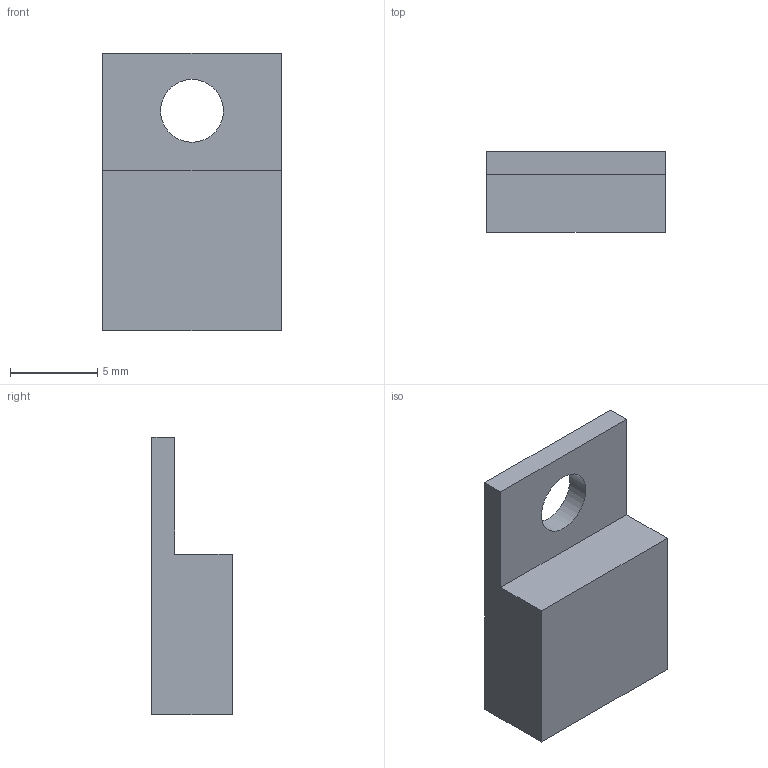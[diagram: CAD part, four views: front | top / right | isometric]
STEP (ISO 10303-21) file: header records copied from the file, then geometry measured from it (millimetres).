
FILE_DESCRIPTION(('Open CASCADE Model'),'2;1');
FILE_NAME('Open CASCADE Shape Model','2026-09-29T12:47:59',('Author'),( 'Open CASCADE'),'Open CASCADE STEP processor 7.9','Open CASCADE 7.9' ,'Unknown');
FILE_SCHEMA(('AUTOMOTIVE_DESIGN { 1 0 10303 214 1 1 1 1 }'));
Length unit declared in the file: millimetre
Products named in the file (1): Open CASCADE STEP translator 7.9 7
Bounding box: 10.2 x 4.6 x 15.9 mm (x, y, z)
Volume: 507.3 mm3; surface area: 514.6 mm2
Topology: 1 solids, 1 shells, 9 faces, 21 edges, 14 vertices
Faces by surface type: plane 8, cylinder 1
Full cylindrical faces by diameter (mm): 3.6 x1
Entity records: 550 total; most frequent: CARTESIAN_POINT 99, DIRECTION 83, LINE 59, VECTOR 59, ORIENTED_EDGE 42, PCURVE 42, DEFINITIONAL_REPRESENTATION 42, EDGE_CURVE 21
